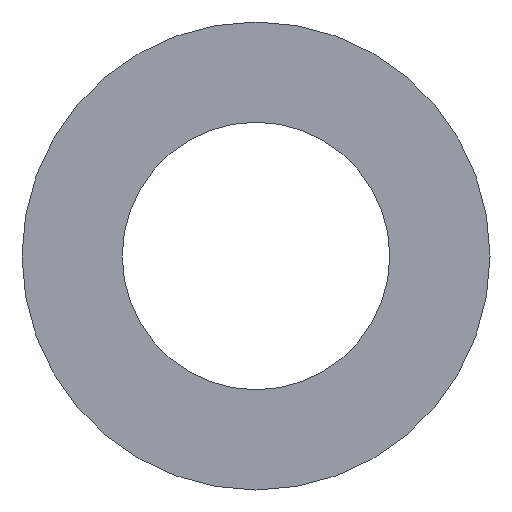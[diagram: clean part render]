
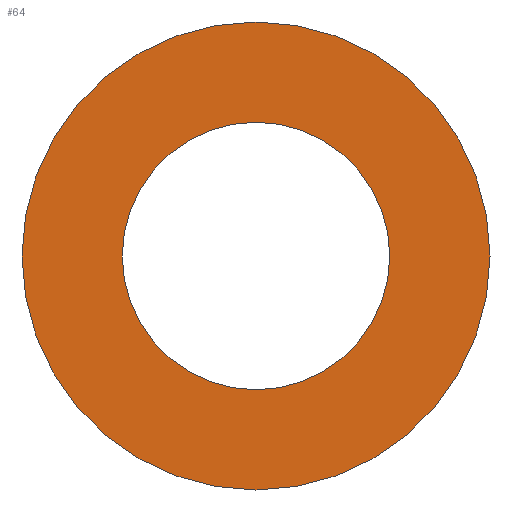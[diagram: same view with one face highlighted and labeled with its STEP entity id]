
A CAD part, left-side view. The second image highlights one B-rep face of the part: STEP entity #64.
In plain terms, the highlighted planar face has unit normal (-1, 0, 0).
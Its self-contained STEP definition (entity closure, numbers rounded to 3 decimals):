
#16=FACE_BOUND('',#28,.T.);
#18=PLANE('',#95);
#22=FACE_OUTER_BOUND('',#27,.T.);
#27=EDGE_LOOP('',(#57));
#28=EDGE_LOOP('',(#58));
#33=CIRCLE('',#89,8.);
#36=CIRCLE('',#93,14.);
#37=VERTEX_POINT('',#118);
#40=VERTEX_POINT('',#126);
#41=EDGE_CURVE('',#37,#37,#33,.T.);
#46=EDGE_CURVE('',#40,#40,#36,.T.);
#57=ORIENTED_EDGE('',*,*,#46,.T.);
#58=ORIENTED_EDGE('',*,*,#41,.T.);
#64=ADVANCED_FACE('',(#22,#16),#18,.T.);
#89=AXIS2_PLACEMENT_3D('',#119,#100,#101);
#93=AXIS2_PLACEMENT_3D('',#128,#110,#111);
#95=AXIS2_PLACEMENT_3D('',#130,#114,#115);
#100=DIRECTION('center_axis',(1.,0.,0.));
#101=DIRECTION('ref_axis',(0.,-1.,0.));
#110=DIRECTION('center_axis',(-1.,0.,0.));
#111=DIRECTION('ref_axis',(0.,-1.,0.));
#114=DIRECTION('center_axis',(-1.,0.,0.));
#115=DIRECTION('ref_axis',(0.,0.,1.));
#118=CARTESIAN_POINT('',(0.,8.,0.));
#119=CARTESIAN_POINT('Origin',(0.,0.,0.));
#126=CARTESIAN_POINT('',(0.,14.,0.));
#128=CARTESIAN_POINT('Origin',(0.,0.,0.));
#130=CARTESIAN_POINT('Origin',(0.,0.,0.));
